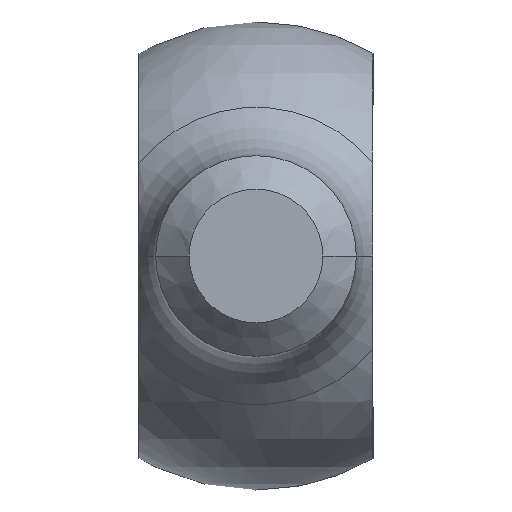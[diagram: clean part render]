
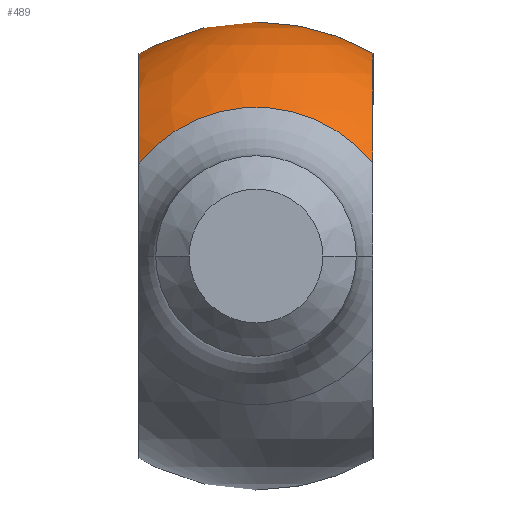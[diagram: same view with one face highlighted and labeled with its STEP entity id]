
A CAD part, left-side view. The second image highlights one B-rep face of the part: STEP entity #489.
In plain terms, the highlighted spherical face has radius 7 mm.
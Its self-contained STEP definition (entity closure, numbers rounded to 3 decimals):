
#1 = DIRECTION ( 'NONE',  ( 0., -1., 0. ) ) ;
#7 = CARTESIAN_POINT ( 'NONE',  ( -5.402, -3.5, 2.75 ) ) ;
#19 = AXIS2_PLACEMENT_3D ( 'NONE', #106, #506, #316 ) ;
#36 = ORIENTED_EDGE ( 'NONE', *, *, #317, .T. ) ;
#39 = ORIENTED_EDGE ( 'NONE', *, *, #446, .F. ) ;
#45 = DIRECTION ( 'NONE',  ( -1., 0., 0. ) ) ;
#48 = CARTESIAN_POINT ( 'NONE',  ( 0., 0., 0. ) ) ;
#62 = DIRECTION ( 'NONE',  ( 0., -1., 0. ) ) ;
#72 = VERTEX_POINT ( 'NONE', #372 ) ;
#82 = EDGE_CURVE ( 'NONE', #72, #437, #441, .T. ) ;
#84 = ORIENTED_EDGE ( 'NONE', *, *, #82, .F. ) ;
#91 = AXIS2_PLACEMENT_3D ( 'NONE', #480, #351, #439 ) ;
#92 = DIRECTION ( 'NONE',  ( 0., 0., 1. ) ) ;
#104 = ORIENTED_EDGE ( 'NONE', *, *, #341, .T. ) ;
#106 = CARTESIAN_POINT ( 'NONE',  ( 0., 0., 0. ) ) ;
#157 = VERTEX_POINT ( 'NONE', #171 ) ;
#171 = CARTESIAN_POINT ( 'NONE',  ( 6.062, 3.5, 0. ) ) ;
#194 = EDGE_CURVE ( 'NONE', #201, #437, #291, .T. ) ;
#201 = VERTEX_POINT ( 'NONE', #7 ) ;
#207 = DIRECTION ( 'NONE',  ( -1., 0., 0. ) ) ;
#211 = DIRECTION ( 'NONE',  ( 0., 0., -1. ) ) ;
#220 = CARTESIAN_POINT ( 'NONE',  ( 0., 3.5, 0. ) ) ;
#244 = EDGE_LOOP ( 'NONE', ( #84, #104, #36, #39, #384 ) ) ;
#252 = CARTESIAN_POINT ( 'NONE',  ( 0., -3.5, 0. ) ) ;
#260 = CIRCLE ( 'NONE', #336, 6.062 ) ;
#280 = SPHERICAL_SURFACE ( 'NONE', #19, 7. ) ;
#291 = CIRCLE ( 'NONE', #507, 6.062 ) ;
#316 = DIRECTION ( 'NONE',  ( 0., -1., 0. ) ) ;
#317 = EDGE_CURVE ( 'NONE', #157, #470, #260, .T. ) ;
#336 = AXIS2_PLACEMENT_3D ( 'NONE', #220, #62, #533 ) ;
#338 = CIRCLE ( 'NONE', #91, 4.451 ) ;
#341 = EDGE_CURVE ( 'NONE', #72, #157, #547, .T. ) ;
#351 = DIRECTION ( 'NONE',  ( -1., 0., 0. ) ) ;
#360 = CARTESIAN_POINT ( 'NONE',  ( 6.062, -3.5, 0. ) ) ;
#372 = CARTESIAN_POINT ( 'NONE',  ( 7., 0., 0. ) ) ;
#384 = ORIENTED_EDGE ( 'NONE', *, *, #194, .T. ) ;
#434 = DIRECTION ( 'NONE',  ( 0., 1., 0. ) ) ;
#437 = VERTEX_POINT ( 'NONE', #360 ) ;
#439 = DIRECTION ( 'NONE',  ( 0., -1., 0. ) ) ;
#441 = CIRCLE ( 'NONE', #462, 7. ) ;
#443 = CARTESIAN_POINT ( 'NONE',  ( 0., 0., 0. ) ) ;
#446 = EDGE_CURVE ( 'NONE', #201, #470, #338, .T. ) ;
#462 = AXIS2_PLACEMENT_3D ( 'NONE', #48, #211, #207 ) ;
#470 = VERTEX_POINT ( 'NONE', #491 ) ;
#480 = CARTESIAN_POINT ( 'NONE',  ( -5.402, 0., 0. ) ) ;
#481 = FACE_OUTER_BOUND ( 'NONE', #244, .T. ) ;
#489 = ADVANCED_FACE ( 'NONE', ( #481 ), #280, .T. ) ;
#491 = CARTESIAN_POINT ( 'NONE',  ( -5.402, 3.5, 2.75 ) ) ;
#506 = DIRECTION ( 'NONE',  ( 0., 0., 1. ) ) ;
#507 = AXIS2_PLACEMENT_3D ( 'NONE', #252, #434, #45 ) ;
#533 = DIRECTION ( 'NONE',  ( 1., 0., 0. ) ) ;
#547 = CIRCLE ( 'NONE', #563, 7. ) ;
#563 = AXIS2_PLACEMENT_3D ( 'NONE', #443, #92, #1 ) ;
